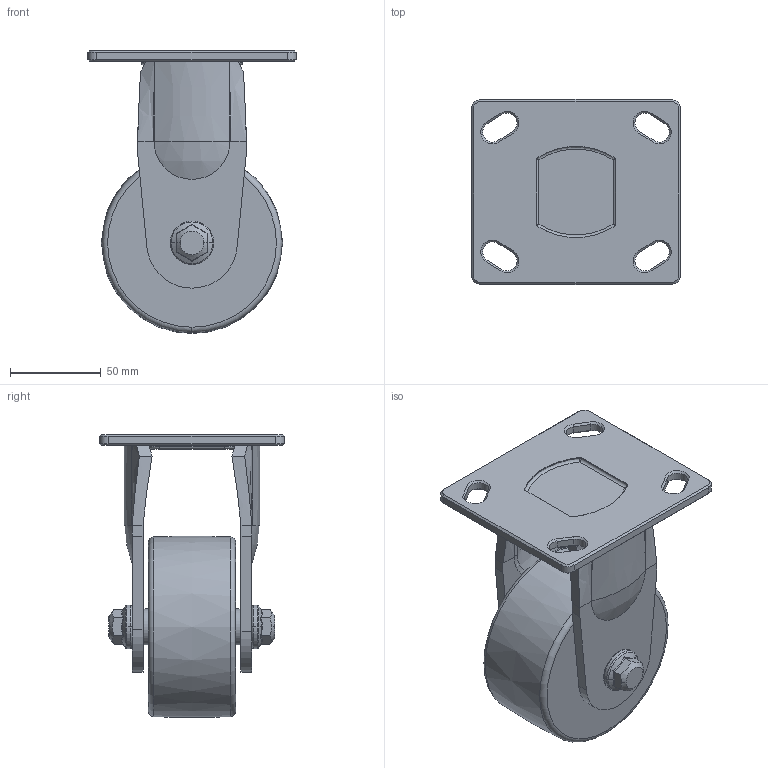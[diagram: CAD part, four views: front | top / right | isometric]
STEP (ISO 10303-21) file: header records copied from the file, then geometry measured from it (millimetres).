
FILE_DESCRIPTION((''),'2;1');
FILE_NAME('GH-100-ARF-MCD.stp','2013-04-30T16:12:32',(''),(''),'Mechanical Desktop 2009','Mechanical Desktop 2009',', , ');
FILE_SCHEMA(('CONFIG_CONTROL_DESIGN'));
Length unit declared in the file: millimetre
Products named in the file (2): GH-100-ARF-MCD; RF-PLATE
Assembly tree (1 placements, depth 2):
  GH-100-ARF-MCD
    RF-PLATE
Bounding box: 115 x 102 x 155.95 mm (x, y, z)
Volume: 530960.9 mm3; surface area: 85859.7 mm2
Topology: 1 solids, 1 shells, 241 faces, 562 edges, 334 vertices
Faces by surface type: plane 83, bspline 50, cylinder 44, cone 42, torus 18, sphere 4
Entity records: 8995 total; most frequent: CARTESIAN_POINT 3679, ORIENTED_EDGE 1116, DIRECTION 1022, EDGE_CURVE 558, AXIS2_PLACEMENT_3D 395, VERTEX_POINT 334, EDGE_LOOP 266, FACE_OUTER_BOUND 241
